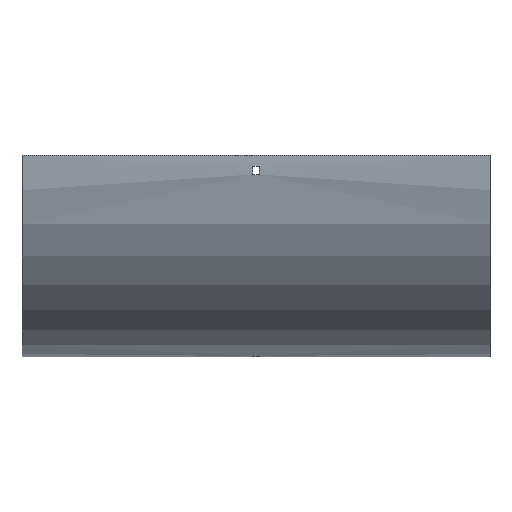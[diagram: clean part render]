
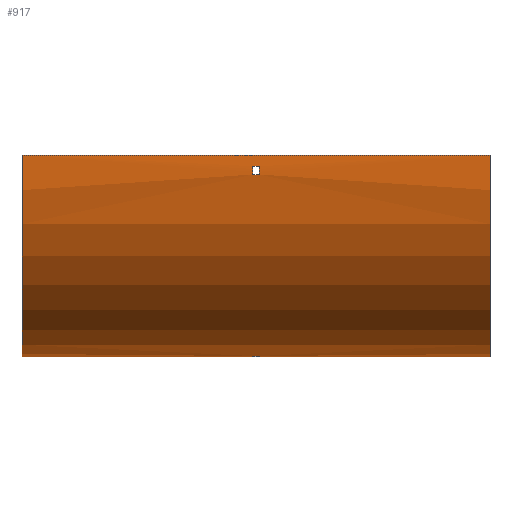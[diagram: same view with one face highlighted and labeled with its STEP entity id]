
A CAD part, front view. The second image highlights one B-rep face of the part: STEP entity #917.
In plain terms, the highlighted cylindrical face has radius 217.5 mm (diameter 435 mm), a partial arc.
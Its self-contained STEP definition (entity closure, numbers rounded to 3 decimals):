
#5 = DIRECTION ( 'NONE',  ( -1., 0., 0. ) ) ;
#68 = CIRCLE ( 'NONE', #1018, 217.5 ) ;
#79 = LINE ( 'NONE', #1136, #1403 ) ;
#86 = DIRECTION ( 'NONE',  ( -1., 0., 0. ) ) ;
#99 = ORIENTED_EDGE ( 'NONE', *, *, #1320, .F. ) ;
#109 = CARTESIAN_POINT ( 'NONE',  ( -252., 100., 0. ) ) ;
#134 = CARTESIAN_POINT ( 'NONE',  ( 3.25, -117.169, -12. ) ) ;
#141 = DIRECTION ( 'NONE',  ( 0., 0., -1. ) ) ;
#157 = VERTEX_POINT ( 'NONE', #694 ) ;
#163 = DIRECTION ( 'NONE',  ( -1., 0., 0. ) ) ;
#230 = CARTESIAN_POINT ( 'NONE',  ( -3.25, 100., 0. ) ) ;
#232 = AXIS2_PLACEMENT_3D ( 'NONE', #788, #402, #810 ) ;
#268 = FACE_OUTER_BOUND ( 'NONE', #650, .T. ) ;
#273 = LINE ( 'NONE', #1419, #1237 ) ;
#274 = CARTESIAN_POINT ( 'NONE',  ( 252., -116.484, -21. ) ) ;
#284 = CARTESIAN_POINT ( 'NONE',  ( 3.25, -116.484, -21. ) ) ;
#322 = CARTESIAN_POINT ( 'NONE',  ( -3.25, -116.484, -21. ) ) ;
#330 = CARTESIAN_POINT ( 'NONE',  ( 252., 79., -216.484 ) ) ;
#343 = ORIENTED_EDGE ( 'NONE', *, *, #983, .F. ) ;
#351 = CARTESIAN_POINT ( 'NONE',  ( 3.25, 100., 0. ) ) ;
#358 = EDGE_CURVE ( 'NONE', #1349, #750, #1153, .T. ) ;
#359 = AXIS2_PLACEMENT_3D ( 'NONE', #950, #827, #449 ) ;
#364 = LINE ( 'NONE', #753, #796 ) ;
#375 = CARTESIAN_POINT ( 'NONE',  ( -252., -117.5, 0. ) ) ;
#402 = DIRECTION ( 'NONE',  ( 1., 0., 0. ) ) ;
#403 = VERTEX_POINT ( 'NONE', #616 ) ;
#407 = DIRECTION ( 'NONE',  ( 0., 0., 1. ) ) ;
#421 = AXIS2_PLACEMENT_3D ( 'NONE', #351, #86, #1243 ) ;
#449 = DIRECTION ( 'NONE',  ( 0., 1., 0. ) ) ;
#477 = DIRECTION ( 'NONE',  ( 0., 0., 1. ) ) ;
#487 = VERTEX_POINT ( 'NONE', #284 ) ;
#495 = CARTESIAN_POINT ( 'NONE',  ( 3.25, 100., 0. ) ) ;
#511 = EDGE_LOOP ( 'NONE', ( #516, #343, #1500, #783 ) ) ;
#516 = ORIENTED_EDGE ( 'NONE', *, *, #716, .F. ) ;
#548 = CARTESIAN_POINT ( 'NONE',  ( -3.25, 79., -216.484 ) ) ;
#564 = LINE ( 'NONE', #330, #743 ) ;
#616 = CARTESIAN_POINT ( 'NONE',  ( -252., 100., -217.5 ) ) ;
#617 = CARTESIAN_POINT ( 'NONE',  ( -3.25, 88., -217.169 ) ) ;
#633 = CIRCLE ( 'NONE', #797, 217.5 ) ;
#650 = EDGE_LOOP ( 'NONE', ( #1159, #99, #1475, #875 ) ) ;
#656 = VERTEX_POINT ( 'NONE', #1241 ) ;
#658 = AXIS2_PLACEMENT_3D ( 'NONE', #920, #163, #407 ) ;
#694 = CARTESIAN_POINT ( 'NONE',  ( 3.25, 88., -217.169 ) ) ;
#698 = VERTEX_POINT ( 'NONE', #1613 ) ;
#716 = EDGE_CURVE ( 'NONE', #1449, #1628, #905, .T. ) ;
#743 = VECTOR ( 'NONE', #1348, 1000. ) ;
#746 = DIRECTION ( 'NONE',  ( 1., 0., 0. ) ) ;
#750 = VERTEX_POINT ( 'NONE', #375 ) ;
#751 = DIRECTION ( 'NONE',  ( -1., 0., 0. ) ) ;
#753 = CARTESIAN_POINT ( 'NONE',  ( 252., -117.169, -12. ) ) ;
#783 = ORIENTED_EDGE ( 'NONE', *, *, #1631, .F. ) ;
#788 = CARTESIAN_POINT ( 'NONE',  ( 252., 100., 0. ) ) ;
#796 = VECTOR ( 'NONE', #746, 1000. ) ;
#797 = AXIS2_PLACEMENT_3D ( 'NONE', #230, #1514, #477 ) ;
#810 = DIRECTION ( 'NONE',  ( 0., 0., -1. ) ) ;
#827 = DIRECTION ( 'NONE',  ( 1., 0., 0. ) ) ;
#874 = ORIENTED_EDGE ( 'NONE', *, *, #1590, .T. ) ;
#875 = ORIENTED_EDGE ( 'NONE', *, *, #358, .T. ) ;
#905 = CIRCLE ( 'NONE', #359, 217.5 ) ;
#910 = EDGE_CURVE ( 'NONE', #487, #1025, #1573, .T. ) ;
#913 = EDGE_CURVE ( 'NONE', #1349, #698, #1126, .T. ) ;
#917 = ADVANCED_FACE ( 'NONE', ( #268, #1032, #935 ), #1447, .T. ) ;
#920 = CARTESIAN_POINT ( 'NONE',  ( 252., 100., 0. ) ) ;
#935 = FACE_BOUND ( 'NONE', #511, .T. ) ;
#950 = CARTESIAN_POINT ( 'NONE',  ( -3.25, 100., 0. ) ) ;
#976 = DIRECTION ( 'NONE',  ( 1., 0., 0. ) ) ;
#983 = EDGE_CURVE ( 'NONE', #1352, #1449, #564, .T. ) ;
#1001 = DIRECTION ( 'NONE',  ( 1., 0., 0. ) ) ;
#1018 = AXIS2_PLACEMENT_3D ( 'NONE', #495, #1578, #141 ) ;
#1025 = VERTEX_POINT ( 'NONE', #322 ) ;
#1032 = FACE_BOUND ( 'NONE', #1102, .T. ) ;
#1047 = CIRCLE ( 'NONE', #421, 217.5 ) ;
#1067 = ORIENTED_EDGE ( 'NONE', *, *, #910, .T. ) ;
#1102 = EDGE_LOOP ( 'NONE', ( #1067, #874, #1519, #1381 ) ) ;
#1126 = CIRCLE ( 'NONE', #232, 217.5 ) ;
#1136 = CARTESIAN_POINT ( 'NONE',  ( 252., 88., -217.169 ) ) ;
#1143 = CARTESIAN_POINT ( 'NONE',  ( 252., -117.5, 0. ) ) ;
#1153 = LINE ( 'NONE', #1143, #1450 ) ;
#1159 = ORIENTED_EDGE ( 'NONE', *, *, #1670, .T. ) ;
#1163 = CARTESIAN_POINT ( 'NONE',  ( 252., -117.5, 0. ) ) ;
#1237 = VECTOR ( 'NONE', #1557, 1000. ) ;
#1241 = CARTESIAN_POINT ( 'NONE',  ( -3.25, -117.169, -12. ) ) ;
#1243 = DIRECTION ( 'NONE',  ( 0., 0., 1. ) ) ;
#1248 = EDGE_CURVE ( 'NONE', #656, #1366, #364, .T. ) ;
#1285 = CARTESIAN_POINT ( 'NONE',  ( 3.25, 79., -216.484 ) ) ;
#1290 = EDGE_CURVE ( 'NONE', #1366, #487, #68, .T. ) ;
#1320 = EDGE_CURVE ( 'NONE', #698, #403, #273, .T. ) ;
#1348 = DIRECTION ( 'NONE',  ( -1., 0., 0. ) ) ;
#1349 = VERTEX_POINT ( 'NONE', #1163 ) ;
#1352 = VERTEX_POINT ( 'NONE', #1285 ) ;
#1366 = VERTEX_POINT ( 'NONE', #134 ) ;
#1381 = ORIENTED_EDGE ( 'NONE', *, *, #1290, .T. ) ;
#1403 = VECTOR ( 'NONE', #1001, 1000. ) ;
#1419 = CARTESIAN_POINT ( 'NONE',  ( 252., 100., -217.5 ) ) ;
#1427 = VECTOR ( 'NONE', #5, 1000. ) ;
#1429 = AXIS2_PLACEMENT_3D ( 'NONE', #109, #976, #1497 ) ;
#1447 = CYLINDRICAL_SURFACE ( 'NONE', #658, 217.5 ) ;
#1449 = VERTEX_POINT ( 'NONE', #548 ) ;
#1450 = VECTOR ( 'NONE', #751, 1000. ) ;
#1475 = ORIENTED_EDGE ( 'NONE', *, *, #913, .F. ) ;
#1497 = DIRECTION ( 'NONE',  ( 0., 0., -1. ) ) ;
#1500 = ORIENTED_EDGE ( 'NONE', *, *, #1570, .F. ) ;
#1514 = DIRECTION ( 'NONE',  ( -1., 0., 0. ) ) ;
#1519 = ORIENTED_EDGE ( 'NONE', *, *, #1248, .T. ) ;
#1557 = DIRECTION ( 'NONE',  ( -1., 0., 0. ) ) ;
#1570 = EDGE_CURVE ( 'NONE', #157, #1352, #1047, .T. ) ;
#1573 = LINE ( 'NONE', #274, #1427 ) ;
#1578 = DIRECTION ( 'NONE',  ( 1., 0., 0. ) ) ;
#1590 = EDGE_CURVE ( 'NONE', #1025, #656, #633, .T. ) ;
#1613 = CARTESIAN_POINT ( 'NONE',  ( 252., 100., -217.5 ) ) ;
#1622 = CIRCLE ( 'NONE', #1429, 217.5 ) ;
#1628 = VERTEX_POINT ( 'NONE', #617 ) ;
#1631 = EDGE_CURVE ( 'NONE', #1628, #157, #79, .T. ) ;
#1670 = EDGE_CURVE ( 'NONE', #750, #403, #1622, .T. ) ;
